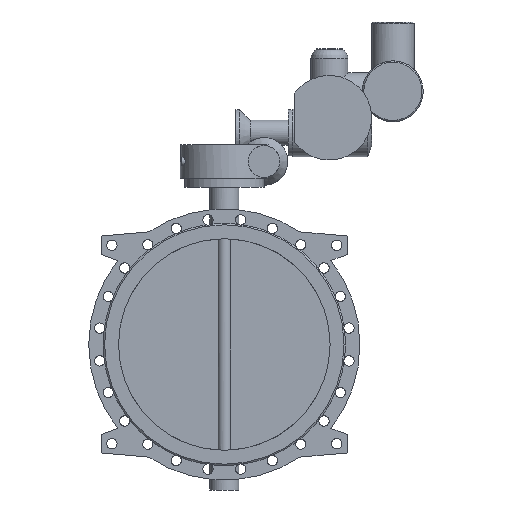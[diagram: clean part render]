
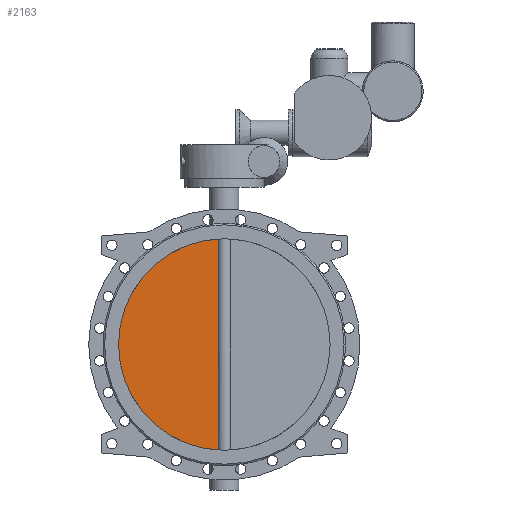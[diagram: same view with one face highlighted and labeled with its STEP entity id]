
A CAD part, front view. The second image highlights one B-rep face of the part: STEP entity #2163.
In plain terms, the highlighted planar face has unit normal (0, -1, 0).
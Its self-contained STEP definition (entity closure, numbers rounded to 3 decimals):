
#2163=ADVANCED_FACE('',(#4286),#4288,.T.);
#4286=FACE_BOUND('',#4287,.T.);
#4287=EDGE_LOOP('',(#5521,#5522));
#4288=PLANE('',#4289);
#4289=AXIS2_PLACEMENT_3D('',#4290,#4291,#4292);
#4290=CARTESIAN_POINT('',(0.,-7.5,0.));
#4291=DIRECTION('',(0.,-1.,0.));
#4292=DIRECTION('',(1.,0.,0.));
#5521=ORIENTED_EDGE('',*,*,#6129,.T.);
#5522=ORIENTED_EDGE('',*,*,#6138,.T.);
#6129=EDGE_CURVE('',#7210,#7208,#7211,.F.);
#6138=EDGE_CURVE('',#7208,#7210,#7226,.F.);
#7208=VERTEX_POINT('',#15951);
#7210=VERTEX_POINT('',#16074);
#7211=CIRCLE('',#16075,400.);
#7226=LINE('',#16423,#16424);
#15951=CARTESIAN_POINT('',(-23.848,-7.5,-399.288));
#16074=CARTESIAN_POINT('',(-23.848,-7.5,399.288));
#16075=AXIS2_PLACEMENT_3D('',#16076,#16077,#16078);
#16076=CARTESIAN_POINT('',(0.,-7.5,0.));
#16077=DIRECTION('',(0.,1.,0.));
#16078=DIRECTION('',(-0.06,0.,-0.998));
#16423=CARTESIAN_POINT('',(-23.848,-7.5,399.288));
#16424=VECTOR('',#16425,1.);
#16425=DIRECTION('',(0.,0.,-1.));
